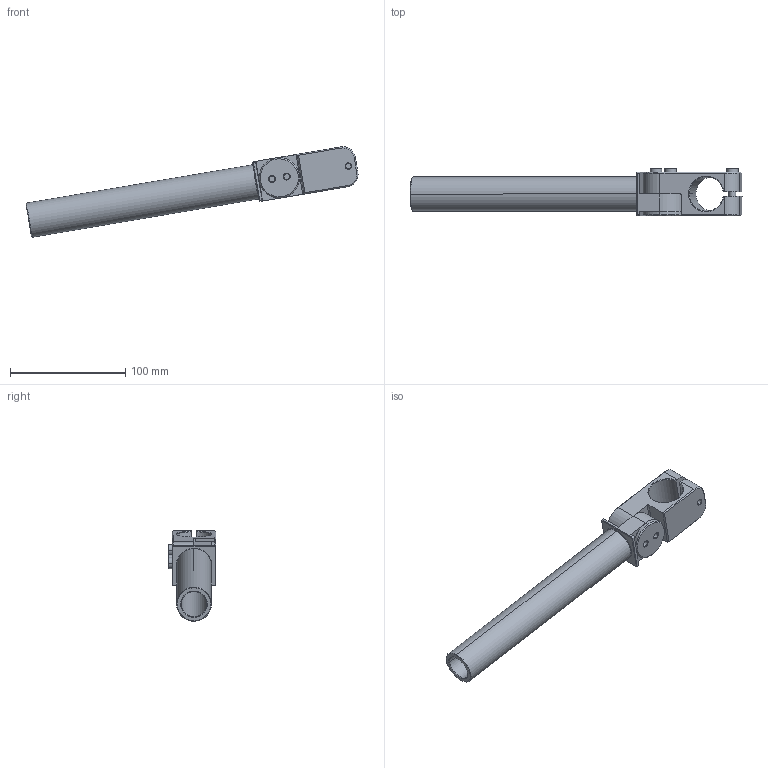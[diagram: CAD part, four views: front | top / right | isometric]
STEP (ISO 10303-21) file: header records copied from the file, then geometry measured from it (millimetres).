
FILE_DESCRIPTION (( 'STEP AP214' ), '1' );
FILE_NAME ('SEAH-3030L200T.STEP', '2023-01-30T02:45:57', ( 'Windows User' ), ( 'P R C' ), 'SwSTEP 2.0', 'SolidWorks 2019', '' );
FILE_SCHEMA (( 'AUTOMOTIVE_DESIGN' ));
Length unit declared in the file: millimetre
Products named in the file (6): PTC-M6L20; PTS-M6; SEAH-3030L200T; SEAH-3030L200.2; SEAH-3030L200.1; SEAH-3030L200.3
Assembly tree (9 placements, depth 2):
  SEAH-3030L200T
    SEAH-3030L200.1
    SEAH-3030L200.2
    SEAH-3030L200.3
    PTC-M6L20  x3
    PTS-M6  x3
Bounding box: 288.11 x 41.45 x 78.46 mm (x, y, z)
Volume: 152072.1 mm3; surface area: 60428.6 mm2
Topology: 9 solids, 9 shells, 688 faces, 1922 edges, 1256 vertices
Faces by surface type: plane 555, cone 65, cylinder 64, bspline 4
Entity records: 10936 total; most frequent: CARTESIAN_POINT 2436, DIRECTION 1810, ORIENTED_EDGE 1704, EDGE_CURVE 852, AXIS2_PLACEMENT_3D 642, VERTEX_POINT 548, VECTOR 526, LINE 526
